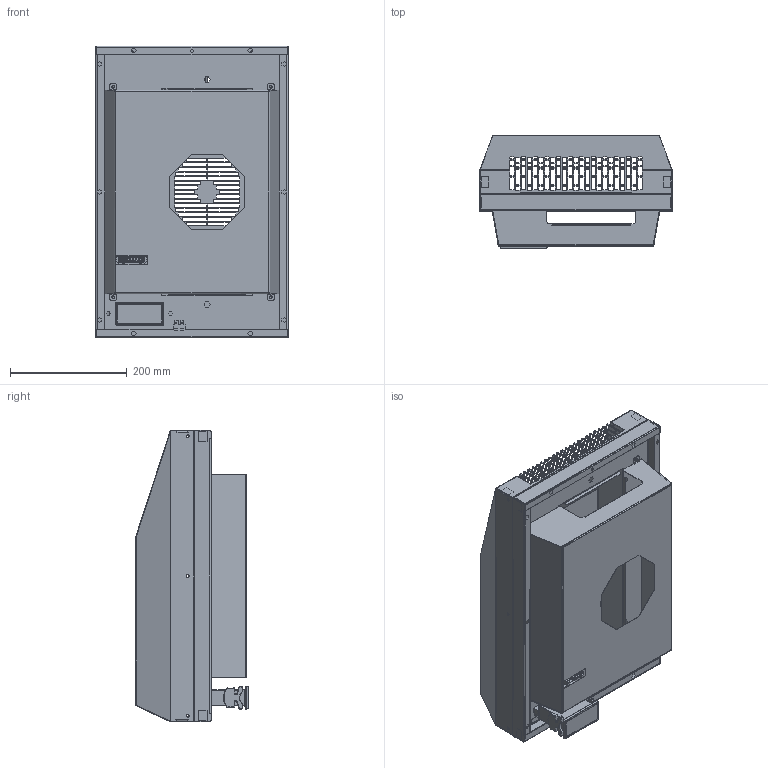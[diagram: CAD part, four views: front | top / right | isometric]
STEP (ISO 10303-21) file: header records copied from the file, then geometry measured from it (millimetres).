
FILE_DESCRIPTION((''),'2;1');
FILE_NAME('TG6205305-COMPLETE-ASSEMBLY_ASM_ASM','2024-02-27T15:47:42',('alexcam'),(''),'CREO PARAMETRIC BY PTC INC, 2023294','CREO PARAMETRIC BY PTC INC, 2023294','');
FILE_SCHEMA(('AUTOMOTIVE_DESIGN { 1 0 10303 214 1 1 1 1 }'));
Products named in the file (20): TG6205-HOUSING_1_1_1_1; TG6205-HOUSING-MNF_ASM_1_ASM_1__ASM; 072106080019_1_1_1; TG6205-HOUSING_ASM_1_ASM_1_ASM__ASM; MEANWELL_HLG-600H_1_2_1_1; MEANWELL_HLG-600H_1_ASM_1_ASM_1_ASM; TG6205-HEATSHIELD-DUCT-MNF_ASM_; TG6205-PSU-W-HEATSHIELD_ASM_1_A_ASM; TG6205-AMBIENT-COVER_1_1_1; TG6205-AMBIENT-COVER_ASM_1_ASM__ASM; CAREL_IR33PLUS_SEIFERT_1_1_1; 41290_TUTTO_1_1_1; 1757048_TUTTO_1_1_1; 1757051_TUTTO_1_1_1; 1757019_TUTTO_1_1_1; CAREL_IR33_PLUS_SEIFERT_ASM_1_A_ASM; TG6205-CONTROLLER-BKT_ASM_1_ASM_ASM; TG6205-WIRING-COVER_1_1_1; TG6205-WIRING-COVER_ASM_1_ASM_1_ASM; TG6205305-COMPLETE-ASSEMBLY_ASM_ASM
Assembly tree (20 placements, depth 4):
  TG6205305-COMPLETE-ASSEMBLY_ASM_ASM
    TG6205-HOUSING_ASM_1_ASM_1_ASM__ASM
      TG6205-HOUSING-MNF_ASM_1_ASM_1__ASM
        TG6205-HOUSING_1_1_1_1
      072106080019_1_1_1
    TG6205-PSU-W-HEATSHIELD_ASM_1_A_ASM
      MEANWELL_HLG-600H_1_ASM_1_ASM_1_ASM
        MEANWELL_HLG-600H_1_2_1_1
      TG6205-HEATSHIELD-DUCT-MNF_ASM_
    TG6205-AMBIENT-COVER_ASM_1_ASM__ASM
      TG6205-AMBIENT-COVER_1_1_1
    TG6205-CONTROLLER-BKT_ASM_1_ASM_ASM
      CAREL_IR33_PLUS_SEIFERT_ASM_1_A_ASM
        CAREL_IR33PLUS_SEIFERT_1_1_1
        41290_TUTTO_1_1_1
        1757048_TUTTO_1_1_1
        1757051_TUTTO_1_1_1
        1757019_TUTTO_1_1_1  x2
    TG6205-WIRING-COVER_ASM_1_ASM_1_ASM
      TG6205-WIRING-COVER_1_1_1
Bounding box: 330 x 193.9 x 500 mm (x, y, z)
Volume: 769044.1 mm3; surface area: 1253130.4 mm2
Topology: 11 solids, 11 shells, 3679 faces, 9980 edges, 6300 vertices
Faces by surface type: plane 2892, cylinder 682, bspline 41, sphere 30, cone 16, torus 16, extrusion 2
Entity records: 113737 total; most frequent: CARTESIAN_POINT 21261, ORIENTED_EDGE 19060, DIRECTION 18267, EDGE_CURVE 9530, VECTOR 7913, LINE 7911, VERTEX_POINT 6018, AXIS2_PLACEMENT_3D 5151
